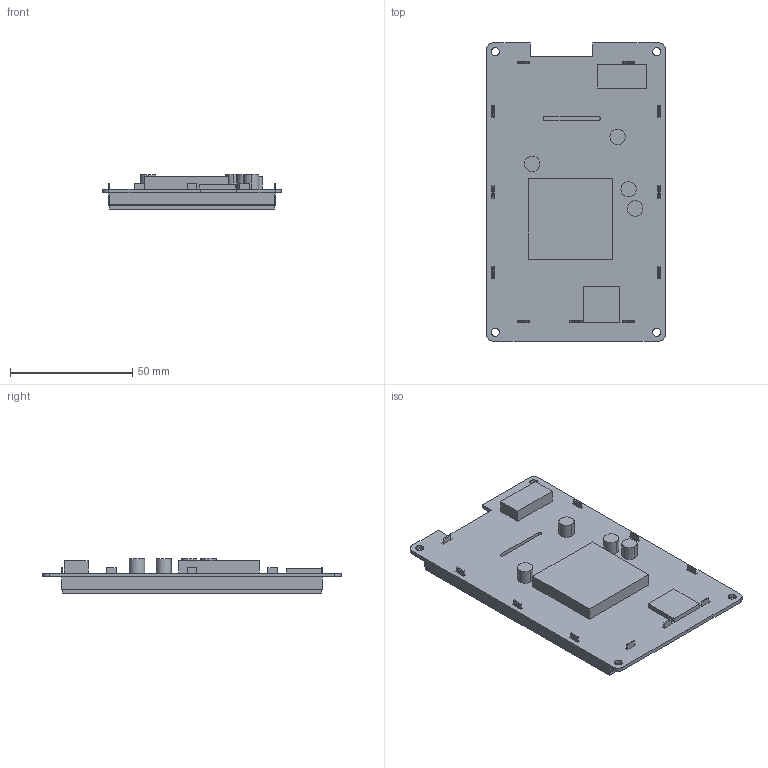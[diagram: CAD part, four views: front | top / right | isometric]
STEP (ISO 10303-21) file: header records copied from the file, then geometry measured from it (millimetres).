
FILE_DESCRIPTION((''),'2;1');
FILE_NAME('3D-DMG80480T043-01WTR','2022-09-27T',('Administrator'),(''),'PRO/ENGINEER BY PARAMETRIC TECHNOLOGY CORPORATION, 2011310','PRO/ENGINEER BY PARAMETRIC TECHNOLOGY CORPORATION, 2011310','');
FILE_SCHEMA(('CONFIG_CONTROL_DESIGN','SHAPE_APPEARANCE_LAYERS_GROUPS'));
Length unit declared in the file: millimetre
Products named in the file (1): 3D-DMG80480T043-01WTR
Bounding box: 73.15 x 121.92 x 14 mm (x, y, z)
Volume: 54623.3 mm3; surface area: 51157 mm2
Topology: 1 solids, 2 shells, 222 faces, 652 edges, 420 vertices
Faces by surface type: plane 200, cylinder 22
Entity records: 8195 total; most frequent: ORIENTED_EDGE 1304, CARTESIAN_POINT 1295, DIRECTION 1142, EDGE_CURVE 652, VECTOR 608, LINE 608, VERTEX_POINT 420, AXIS2_PLACEMENT_3D 267
